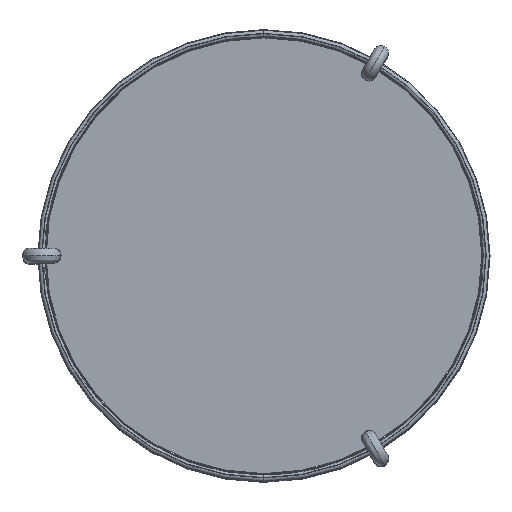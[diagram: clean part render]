
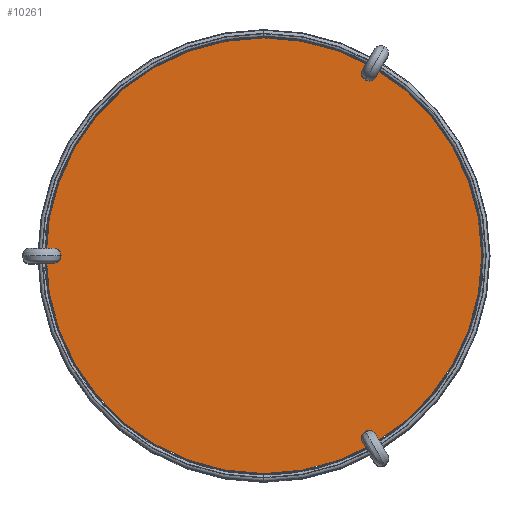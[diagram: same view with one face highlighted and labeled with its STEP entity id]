
A CAD part, top view. The second image highlights one B-rep face of the part: STEP entity #10261.
In plain terms, the highlighted planar face has unit normal (0, 0, 1).
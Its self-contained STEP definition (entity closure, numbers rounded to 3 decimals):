
#606=FACE_BOUND('',#2219,.T.);
#607=FACE_BOUND('',#2220,.T.);
#608=FACE_BOUND('',#2221,.T.);
#837=PLANE('',#11202);
#1522=FACE_OUTER_BOUND('',#2218,.T.);
#2218=EDGE_LOOP('',(#8326,#8327));
#2219=EDGE_LOOP('',(#8328,#8329));
#2220=EDGE_LOOP('',(#8330,#8331));
#2221=EDGE_LOOP('',(#8332,#8333));
#2825=CIRCLE('',#11192,2.5);
#2827=CIRCLE('',#11195,2.5);
#2829=CIRCLE('',#11198,2.5);
#2830=CIRCLE('',#11200,145.);
#2832=CIRCLE('',#11203,145.);
#2833=CIRCLE('',#11204,2.5);
#2834=CIRCLE('',#11205,2.5);
#2835=CIRCLE('',#11206,2.5);
#4830=VERTEX_POINT('',#19612);
#4832=VERTEX_POINT('',#19616);
#4834=VERTEX_POINT('',#19621);
#4836=VERTEX_POINT('',#19625);
#4838=VERTEX_POINT('',#19630);
#4840=VERTEX_POINT('',#19634);
#4841=VERTEX_POINT('',#19638);
#4842=VERTEX_POINT('',#19639);
#6095=EDGE_CURVE('',#4830,#4832,#2825,.T.);
#6099=EDGE_CURVE('',#4834,#4836,#2827,.T.);
#6103=EDGE_CURVE('',#4838,#4840,#2829,.T.);
#6104=EDGE_CURVE('',#4841,#4842,#2830,.T.);
#6108=EDGE_CURVE('',#4841,#4842,#2832,.T.);
#6109=EDGE_CURVE('',#4838,#4840,#2833,.T.);
#6110=EDGE_CURVE('',#4834,#4836,#2834,.T.);
#6111=EDGE_CURVE('',#4830,#4832,#2835,.T.);
#8326=ORIENTED_EDGE('',*,*,#6104,.T.);
#8327=ORIENTED_EDGE('',*,*,#6108,.F.);
#8328=ORIENTED_EDGE('',*,*,#6109,.F.);
#8329=ORIENTED_EDGE('',*,*,#6103,.T.);
#8330=ORIENTED_EDGE('',*,*,#6110,.F.);
#8331=ORIENTED_EDGE('',*,*,#6099,.T.);
#8332=ORIENTED_EDGE('',*,*,#6111,.F.);
#8333=ORIENTED_EDGE('',*,*,#6095,.T.);
#10261=ADVANCED_FACE('',(#1522,#606,#607,#608),#837,.T.);
#11192=AXIS2_PLACEMENT_3D('',#19618,#13081,#13082);
#11195=AXIS2_PLACEMENT_3D('',#19627,#13089,#13090);
#11198=AXIS2_PLACEMENT_3D('',#19636,#13097,#13098);
#11200=AXIS2_PLACEMENT_3D('',#19640,#13101,#13102);
#11202=AXIS2_PLACEMENT_3D('',#19646,#13107,#13108);
#11203=AXIS2_PLACEMENT_3D('',#19647,#13109,#13110);
#11204=AXIS2_PLACEMENT_3D('',#19648,#13111,#13112);
#11205=AXIS2_PLACEMENT_3D('',#19649,#13113,#13114);
#11206=AXIS2_PLACEMENT_3D('',#19650,#13115,#13116);
#13081=DIRECTION('center_axis',(0.,0.,-1.));
#13082=DIRECTION('ref_axis',(-1.,0.,0.));
#13089=DIRECTION('center_axis',(0.,0.,-1.));
#13090=DIRECTION('ref_axis',(-1.,0.,0.));
#13097=DIRECTION('center_axis',(0.,0.,-1.));
#13098=DIRECTION('ref_axis',(-1.,0.,0.));
#13101=DIRECTION('center_axis',(0.,0.,1.));
#13102=DIRECTION('ref_axis',(0.,1.,0.));
#13107=DIRECTION('center_axis',(0.,0.,1.));
#13108=DIRECTION('ref_axis',(0.,-1.,0.));
#13109=DIRECTION('center_axis',(0.,0.,-1.));
#13110=DIRECTION('ref_axis',(0.,-1.,0.));
#13111=DIRECTION('center_axis',(0.,0.,1.));
#13112=DIRECTION('ref_axis',(1.,0.,0.));
#13113=DIRECTION('center_axis',(0.,0.,1.));
#13114=DIRECTION('ref_axis',(1.,0.,0.));
#13115=DIRECTION('center_axis',(0.,0.,1.));
#13116=DIRECTION('ref_axis',(1.,0.,0.));
#19612=CARTESIAN_POINT('',(67.5,-121.244,419.));
#19616=CARTESIAN_POINT('',(72.5,-121.244,419.));
#19618=CARTESIAN_POINT('Origin',(70.,-121.244,419.));
#19621=CARTESIAN_POINT('',(-142.5,0.,419.));
#19625=CARTESIAN_POINT('',(-137.5,0.,419.));
#19627=CARTESIAN_POINT('Origin',(-140.,0.,419.));
#19630=CARTESIAN_POINT('',(67.5,121.244,419.));
#19634=CARTESIAN_POINT('',(72.5,121.244,419.));
#19636=CARTESIAN_POINT('Origin',(70.,121.244,419.));
#19638=CARTESIAN_POINT('',(145.,0.,419.));
#19639=CARTESIAN_POINT('',(-145.,0.,419.));
#19640=CARTESIAN_POINT('Origin',(0.,0.,
419.));
#19646=CARTESIAN_POINT('Origin',(-145.01,0.,419.));
#19647=CARTESIAN_POINT('Origin',(0.,0.,
419.));
#19648=CARTESIAN_POINT('Origin',(70.,121.244,419.));
#19649=CARTESIAN_POINT('Origin',(-140.,0.,419.));
#19650=CARTESIAN_POINT('Origin',(70.,-121.244,419.));
